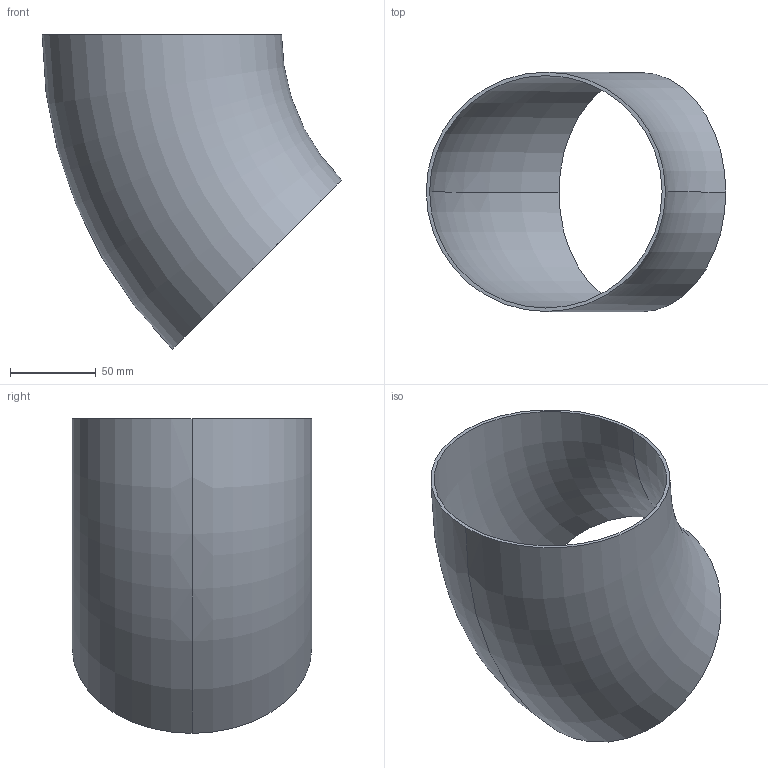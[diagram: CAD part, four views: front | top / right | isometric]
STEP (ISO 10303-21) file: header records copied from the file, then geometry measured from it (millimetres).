
FILE_DESCRIPTION (( 'STEP AP203' ), '1' );
FILE_NAME ('3D_R1650_139.7x2_17351650.STEP', '2024-08-03T09:12:39', ( '' ), ( '' ), 'SwSTEP 2.0', 'SolidWorks 2024', '' );
FILE_SCHEMA (( 'CONFIG_CONTROL_DESIGN' ));
Length unit declared in the file: millimetre
Products named in the file (1): 3D_R1650_139.7x2_17351650
Bounding box: 174.89 x 139.7 x 183.74 mm (x, y, z)
Volume: 129109.2 mm3; surface area: 130839.6 mm2
Topology: 1 solids, 1 shells, 6 faces, 12 edges, 8 vertices
Faces by surface type: torus 4, plane 2
Entity records: 249 total; most frequent: DIRECTION 38, CARTESIAN_POINT 27, ORIENTED_EDGE 24, AXIS2_PLACEMENT_3D 19, CIRCLE 12, EDGE_CURVE 12, PERSON_AND_ORGANIZATION 8, VERTEX_POINT 8
